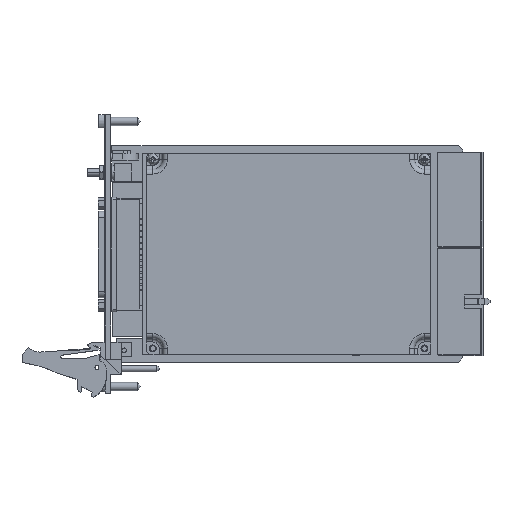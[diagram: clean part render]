
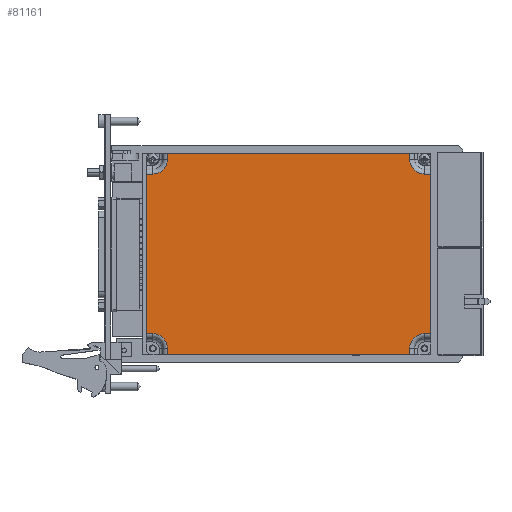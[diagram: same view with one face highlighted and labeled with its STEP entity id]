
A CAD part, top view. The second image highlights one B-rep face of the part: STEP entity #81161.
In plain terms, the highlighted planar face has unit normal (0, 0, 1).
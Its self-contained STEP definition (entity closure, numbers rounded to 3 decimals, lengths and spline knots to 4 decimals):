
#1485=DIRECTION('',(0.,-1.,0.));
#1486=VECTOR('',#1485,2.9019);
#1487=CARTESIAN_POINT('',(0.547,-0.5176,0.588));
#1488=LINE('',#1487,#1486);
#1489=DIRECTION('',(1.,0.,0.));
#1490=VECTOR('',#1489,0.115);
#1491=CARTESIAN_POINT('',(0.547,-0.5176,0.588));
#1492=LINE('',#1491,#1490);
#1493=CARTESIAN_POINT('',(0.662,-0.25,0.588));
#1494=DIRECTION('',(0.,0.,1.));
#1495=DIRECTION('',(0.,-1.,0.));
#1496=AXIS2_PLACEMENT_3D('',#1493,#1494,#1495);
#1498=DIRECTION('',(0.,1.,0.));
#1499=VECTOR('',#1498,0.115);
#1500=CARTESIAN_POINT('',(0.9296,-0.25,0.588));
#1501=LINE('',#1500,#1499);
#1502=DIRECTION('',(-1.,0.,0.));
#1503=VECTOR('',#1502,4.4029);
#1504=CARTESIAN_POINT('',(5.3324,-0.135,0.588));
#1505=LINE('',#1504,#1503);
#1506=DIRECTION('',(0.,-1.,0.));
#1507=VECTOR('',#1506,0.115);
#1508=CARTESIAN_POINT('',(5.3324,-0.135,0.588));
#1509=LINE('',#1508,#1507);
#1510=CARTESIAN_POINT('',(5.6,-0.25,0.588));
#1511=DIRECTION('',(0.,0.,1.));
#1512=DIRECTION('',(-1.,0.,0.));
#1513=AXIS2_PLACEMENT_3D('',#1510,#1511,#1512);
#1515=DIRECTION('',(1.,0.,0.));
#1516=VECTOR('',#1515,0.115);
#1517=CARTESIAN_POINT('',(5.6,-0.5176,0.588));
#1518=LINE('',#1517,#1516);
#1519=DIRECTION('',(0.,-1.,0.));
#1520=VECTOR('',#1519,2.9019);
#1521=CARTESIAN_POINT('',(5.715,-0.5176,0.588));
#1522=LINE('',#1521,#1520);
#1523=DIRECTION('',(-1.,0.,0.));
#1524=VECTOR('',#1523,0.115);
#1525=CARTESIAN_POINT('',(5.715,-3.4194,0.588));
#1526=LINE('',#1525,#1524);
#1527=CARTESIAN_POINT('',(5.6,-3.687,0.588));
#1528=DIRECTION('',(0.,0.,1.));
#1529=DIRECTION('',(0.,1.,0.));
#1530=AXIS2_PLACEMENT_3D('',#1527,#1528,#1529);
#1532=DIRECTION('',(0.,-1.,0.));
#1533=VECTOR('',#1532,0.115);
#1534=CARTESIAN_POINT('',(5.3324,-3.687,0.588));
#1535=LINE('',#1534,#1533);
#1536=DIRECTION('',(-1.,0.,0.));
#1537=VECTOR('',#1536,4.4029);
#1538=CARTESIAN_POINT('',(5.3324,-3.802,0.588));
#1539=LINE('',#1538,#1537);
#1540=DIRECTION('',(0.,1.,0.));
#1541=VECTOR('',#1540,0.115);
#1542=CARTESIAN_POINT('',(0.9296,-3.802,0.588));
#1543=LINE('',#1542,#1541);
#1544=CARTESIAN_POINT('',(0.662,-3.687,0.588));
#1545=DIRECTION('',(0.,0.,1.));
#1546=DIRECTION('',(1.,0.,0.));
#1547=AXIS2_PLACEMENT_3D('',#1544,#1545,#1546);
#1549=DIRECTION('',(-1.,0.,0.));
#1550=VECTOR('',#1549,0.115);
#1551=CARTESIAN_POINT('',(0.662,-3.4194,0.588));
#1552=LINE('',#1551,#1550);
#76682=CARTESIAN_POINT('',(5.3324,-0.25,0.588));
#76683=CARTESIAN_POINT('',(5.6,-0.5176,0.588));
#76684=VERTEX_POINT('',#76682);
#76685=VERTEX_POINT('',#76683);
#76694=CARTESIAN_POINT('',(0.662,-0.5176,0.588));
#76695=CARTESIAN_POINT('',(0.9296,-0.25,0.588));
#76696=VERTEX_POINT('',#76694);
#76697=VERTEX_POINT('',#76695);
#76706=CARTESIAN_POINT('',(0.9296,-3.687,0.588));
#76707=CARTESIAN_POINT('',(0.662,-3.4194,0.588));
#76708=VERTEX_POINT('',#76706);
#76709=VERTEX_POINT('',#76707);
#76718=CARTESIAN_POINT('',(5.6,-3.4194,0.588));
#76719=CARTESIAN_POINT('',(5.3324,-3.687,0.588));
#76720=VERTEX_POINT('',#76718);
#76721=VERTEX_POINT('',#76719);
#76758=CARTESIAN_POINT('',(5.3324,-3.802,0.588));
#76759=CARTESIAN_POINT('',(0.9296,-3.802,0.588));
#76760=VERTEX_POINT('',#76758);
#76761=VERTEX_POINT('',#76759);
#76762=CARTESIAN_POINT('',(5.3324,-0.135,0.588));
#76763=CARTESIAN_POINT('',(0.9296,-0.135,0.588));
#76764=VERTEX_POINT('',#76762);
#76765=VERTEX_POINT('',#76763);
#76798=CARTESIAN_POINT('',(0.547,-0.5176,0.588));
#76799=CARTESIAN_POINT('',(0.547,-3.4194,0.588));
#76800=VERTEX_POINT('',#76798);
#76801=VERTEX_POINT('',#76799);
#76802=CARTESIAN_POINT('',(5.715,-0.5176,0.588));
#76803=CARTESIAN_POINT('',(5.715,-3.4194,0.588));
#76804=VERTEX_POINT('',#76802);
#76805=VERTEX_POINT('',#76803);
#81127=CARTESIAN_POINT('',(3.131,-1.9685,0.588));
#81128=DIRECTION('',(0.,0.,1.));
#81129=DIRECTION('',(-1.,0.,0.));
#81130=AXIS2_PLACEMENT_3D('',#81127,#81128,#81129);
#81131=PLANE('',#81130);
#81132=ORIENTED_EDGE('',*,*,#80892,.F.);
#81134=ORIENTED_EDGE('',*,*,#81133,.T.);
#81136=ORIENTED_EDGE('',*,*,#81135,.T.);
#81137=ORIENTED_EDGE('',*,*,#81119,.T.);
#81138=ORIENTED_EDGE('',*,*,#80353,.F.);
#81140=ORIENTED_EDGE('',*,*,#81139,.T.);
#81142=ORIENTED_EDGE('',*,*,#81141,.T.);
#81144=ORIENTED_EDGE('',*,*,#81143,.T.);
#81145=ORIENTED_EDGE('',*,*,#80428,.T.);
#81147=ORIENTED_EDGE('',*,*,#81146,.T.);
#81149=ORIENTED_EDGE('',*,*,#81148,.T.);
#81151=ORIENTED_EDGE('',*,*,#81150,.T.);
#81152=ORIENTED_EDGE('',*,*,#80519,.T.);
#81154=ORIENTED_EDGE('',*,*,#81153,.T.);
#81156=ORIENTED_EDGE('',*,*,#81155,.T.);
#81158=ORIENTED_EDGE('',*,*,#81157,.T.);
#81159=EDGE_LOOP('',(#81132,#81134,#81136,#81137,#81138,#81140,#81142,#81144,
#81145,#81147,#81149,#81151,#81152,#81154,#81156,#81158));
#81160=FACE_OUTER_BOUND('',#81159,.F.);
#81161=ADVANCED_FACE('',(#81160),#81131,.T.);
#1497=CIRCLE('',#1496,0.2676);
#1514=CIRCLE('',#1513,0.2676);
#1531=CIRCLE('',#1530,0.2676);
#1548=CIRCLE('',#1547,0.2676);
#80353=EDGE_CURVE('',#76764,#76765,#1505,.T.);
#80428=EDGE_CURVE('',#76804,#76805,#1522,.T.);
#80519=EDGE_CURVE('',#76760,#76761,#1539,.T.);
#80892=EDGE_CURVE('',#76800,#76801,#1488,.T.);
#81119=EDGE_CURVE('',#76697,#76765,#1501,.T.);
#81133=EDGE_CURVE('',#76800,#76696,#1492,.T.);
#81135=EDGE_CURVE('',#76696,#76697,#1497,.T.);
#81139=EDGE_CURVE('',#76764,#76684,#1509,.T.);
#81141=EDGE_CURVE('',#76684,#76685,#1514,.T.);
#81143=EDGE_CURVE('',#76685,#76804,#1518,.T.);
#81146=EDGE_CURVE('',#76805,#76720,#1526,.T.);
#81148=EDGE_CURVE('',#76720,#76721,#1531,.T.);
#81150=EDGE_CURVE('',#76721,#76760,#1535,.T.);
#81153=EDGE_CURVE('',#76761,#76708,#1543,.T.);
#81155=EDGE_CURVE('',#76708,#76709,#1548,.T.);
#81157=EDGE_CURVE('',#76709,#76801,#1552,.T.);
